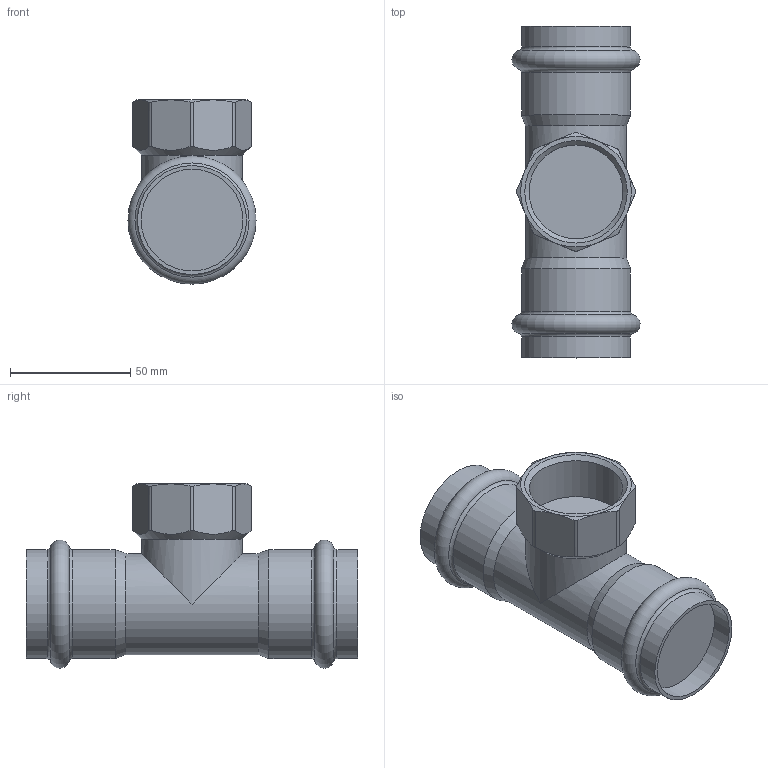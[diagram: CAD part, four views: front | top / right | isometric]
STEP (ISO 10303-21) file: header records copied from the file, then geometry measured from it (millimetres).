
FILE_DESCRIPTION(('STEP AP203'), '1');
FILE_NAME('VTi.932.I.420742', '', ('UNSPECIFIED'), ('UNSPECIFIED'), 'C3D Converter', 'C3D Toolkit', '');
FILE_SCHEMA(('CONFIG_CONTROL_DESIGN'));
Length unit declared in the file: millimetre
Bounding box: 53.29 x 138 x 76.65 mm (x, y, z)
Volume: 220710.2 mm3; surface area: 33767.6 mm2
Topology: 1 solids, 1 shells, 49 faces, 112 edges, 68 vertices
Faces by surface type: cylinder 17, plane 14, cone 12, torus 6
Full cylindrical faces by diameter (mm): 39 x1, 42 x2, 42.3 x2, 45.3 x4
Entity records: 2427 total; most frequent: CARTESIAN_POINT 1434, ORIENTED_EDGE 184, DIRECTION 178, EDGE_CURVE 92, AXIS2_PLACEMENT_3D 81, EDGE_LOOP 72, VERTEX_POINT 68, ADVANCED_FACE 49
